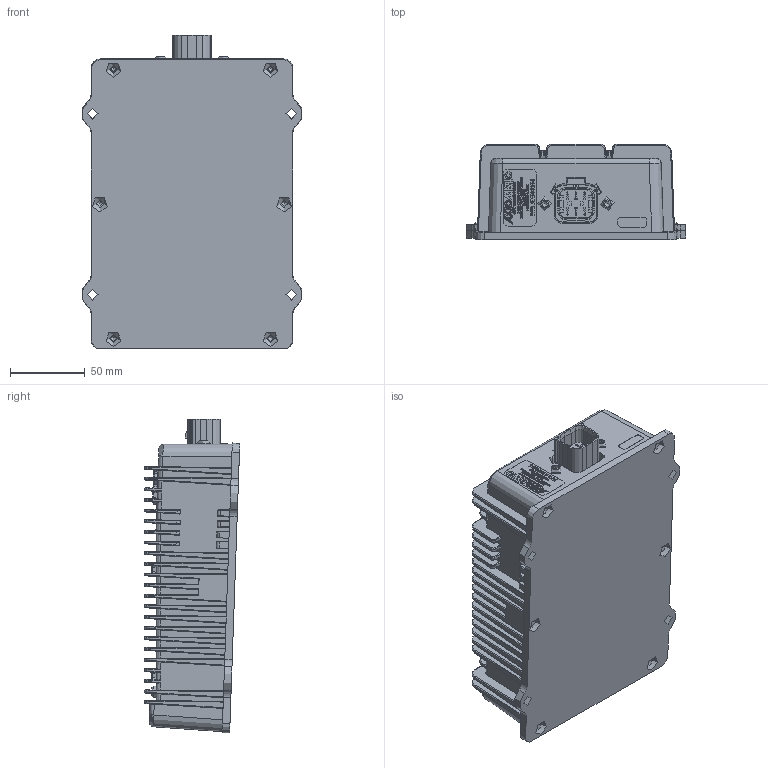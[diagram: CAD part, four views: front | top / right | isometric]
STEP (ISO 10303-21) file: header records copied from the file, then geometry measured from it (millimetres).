
FILE_DESCRIPTION(/* description */ ('','CAx-IF Rec.Pracs.---Representation and Presentation of Product Manufacturing Information (PMI)---3.8---2014-02-18'),/* implementation_level */ '2;1');
FILE_NAME(/* name */ 'S:\Projects\PS-60-24-240W, AX083204, Proj_20161\UNIT ASSEMBLY\RELEASED\P1\AX083204.stp',/* time_stamp */ '2020-10-29T18:50:55-04:00',/* author */ ('tfisher'),/* organization */ (''),/* preprocessor_version */ 'ST-DEVELOPER v16.13',/* originating_system */ 'Autodesk Inventor 2018',/* authorisation */ '');
FILE_SCHEMA (('AP242_MANAGED_MODEL_BASED_3D_ENGINEERING_MIM_LF { 1 0 10303 442 1 1 4 }'));
Products named in the file (1): FG-AX083204 for STEP_Shrinkwrap_1
Bounding box: 147.04 x 63.88 x 209.83 mm (x, y, z)
Volume: 474667.1 mm3; surface area: 239370.3 mm2
Topology: 3 solids, 22 shells, 5747 faces, 14585 edges, 9179 vertices
Faces by surface type: plane 2497, bspline 1578, cylinder 1480, torus 83, cone 78, sphere 31
Full cylindrical faces by diameter (mm): 1.1 x6, 2 x2, 2.481 x12, 3.175 x4, 3.251 x4, 3.447 x4, 3.912 x2, 4.14 x6, 4.445 x4, 4.5 x2, 4.826 x2, 4.898 x2, 5 x2, 8.89 x2, 9.169 x2
Entity records: 215089 total; most frequent: CARTESIAN_POINT 76695, ORIENTED_EDGE 28826, DIRECTION 25149, EDGE_CURVE 14401, VERTEX_POINT 9131, LINE 8561, VECTOR 8561, AXIS2_PLACEMENT_3D 8298
